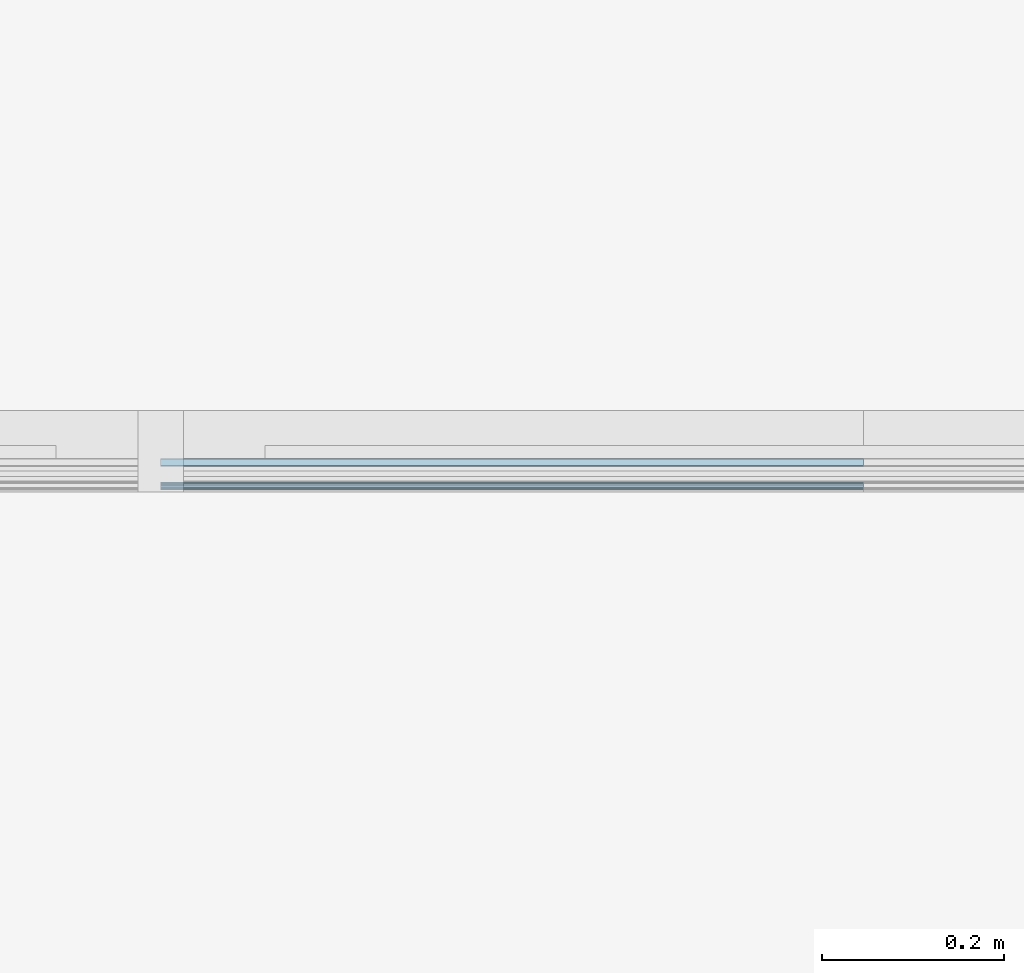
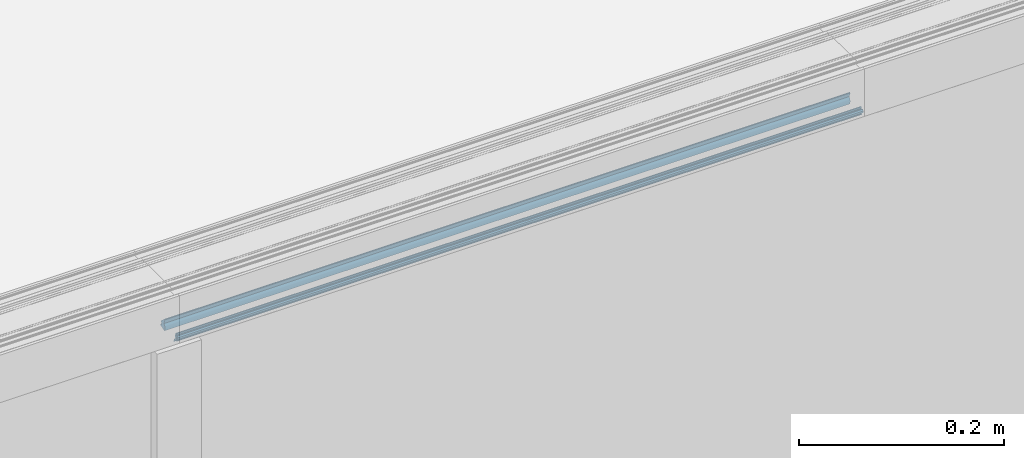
# One storey, part 35 of 69: 1 building element part, 2 elements without a shape of their own.
"""IFC2X3 building model written with IfcOpenShell, lengths in millimetres."""

import ifcopenshell
import ifcopenshell.guid

model = None  # the IFC model being written
_history = None  # IfcOwnerHistory: only IFC2X3 demands one
_inside = {}  # id of a spatial element -> (the spatial element, [elements in it])
_under = {}  # id of a project, library or spatial element -> (it, [spatial elements below it])
_declared = {}  # id of a project -> (the project, [libraries it declares])
_typed = {}  # id of a type object -> (the type object, [elements of that type])
_made_of = {}  # id of a material, layer set ... -> (it, [elements and type objects made of it])


def new_model(schema):
    """Start an empty IFC model of exactly this schema.

    Asked for "IFC4X3", IfcOpenShell would pick the latest addendum, in which some entities
    have other attributes; the version numbers below select the first issue.
    IFC2X3 requires an IfcOwnerHistory on every rooted entity: one is made here for all.
    """
    global model, _history
    if schema == "IFC4X3":
        model = ifcopenshell.file(schema_version=(4, 3, 0, 0))
    else:
        model = ifcopenshell.file(schema=schema)
    _inside.clear()
    _under.clear()
    _declared.clear()
    _typed.clear()
    _made_of.clear()
    _history = None
    if model.schema == "IFC2X3":
        org = make("IfcOrganization", Name="unknown")
        user = make(
            "IfcPersonAndOrganization",
            ThePerson=make("IfcPerson", FamilyName="unknown"),
            TheOrganization=org,
        )
        app = make(
            "IfcApplication",
            ApplicationDeveloper=org,
            Version="unknown",
            ApplicationFullName="unknown",
            ApplicationIdentifier="unknown",
        )
        _history = make(
            "IfcOwnerHistory",
            OwningUser=user,
            OwningApplication=app,
            ChangeAction="ADDED",
            CreationDate=0,
        )
    return model


def make(cls, **values):
    """One entity of the class cls with the attributes given. An attribute that is None is left unset."""
    return model.create_entity(
        cls, **{name: value for name, value in values.items() if value is not None}
    )


def entity(cls, *values):
    """Any entity or typed value of the class cls, its attributes in the order of the schema. None: left unset."""
    e = model.create_entity(cls)
    for i, value in enumerate(values):
        if value is not None:
            e[i] = value
    return e


def rooted(cls, **values):
    """An entity with a GlobalId (a new one), such as an element, a storey or a relation."""
    return make(cls, GlobalId=ifcopenshell.guid.new(), OwnerHistory=_history, **values)


def si_unit(unit_type, name, prefix=None):
    """IfcSIUnit, for example si_unit("LENGTHUNIT", "METRE", prefix="MILLI")."""
    return make("IfcSIUnit", UnitType=unit_type, Prefix=prefix, Name=name)


def converted_unit(unit_type, name, factor, base, dimensions=None, offset=None):
    """IfcConversionBasedUnit, such as the inch: factor (a typed value) times the base unit."""
    return make(
        "IfcConversionBasedUnit"
        if offset is None
        else "IfcConversionBasedUnitWithOffset",
        ConversionOffset=offset,
        Dimensions=None
        if dimensions is None
        else entity("IfcDimensionalExponents", *dimensions),
        UnitType=unit_type,
        Name=name,
        ConversionFactor=make(
            "IfcMeasureWithUnit", ValueComponent=factor, UnitComponent=base
        ),
    )


def derived_unit(unit_type, elements):
    """IfcDerivedUnit: a product of units, each with its exponent."""
    return make(
        "IfcDerivedUnit",
        Elements=[
            make("IfcDerivedUnitElement", Unit=unit, Exponent=power)
            for unit, power in elements
        ],
        UnitType=unit_type,
    )


def money_unit(currency):
    """IfcMonetaryUnit."""
    return make("IfcMonetaryUnit", Currency=currency)


def assignment(units):
    """IfcUnitAssignment: the units of a project."""
    return None if units is None else make("IfcUnitAssignment", Units=units)


def point(xyz):
    """IfcCartesianPoint."""
    return None if xyz is None else make("IfcCartesianPoint", Coordinates=xyz)


def direction(xyz):
    """IfcDirection."""
    return None if xyz is None else make("IfcDirection", DirectionRatios=xyz)


def frame(location, z_axis=None, x_axis=None):
    """IfcAxis2Placement3D, a coordinate frame: its origin and axes. An axis left out is left unset."""
    return make(
        "IfcAxis2Placement3D",
        Location=point(location),
        Axis=direction(z_axis),
        RefDirection=direction(x_axis),
    )


def origin_with_axes():
    """The frame at (0, 0, 0) with the z axis (0, 0, 1) and the x axis (1, 0, 0) written out."""
    return frame((0.0, 0.0, 0.0), z_axis=(0.0, 0.0, 1.0), x_axis=(1.0, 0.0, 0.0))


def place(relative_to, where):
    """IfcLocalPlacement: puts the frame where relative to a parent placement (None: the world)."""
    return make(
        "IfcLocalPlacement", PlacementRelTo=relative_to, RelativePlacement=where
    )


def context(
    kind, dimensions, precision=None, world=None, true_north=None, identifier=None
):
    """IfcGeometricRepresentationContext, for example the 3D "Model" context."""
    return make(
        "IfcGeometricRepresentationContext",
        ContextIdentifier=identifier,
        ContextType=kind,
        CoordinateSpaceDimension=dimensions,
        Precision=precision,
        WorldCoordinateSystem=world,
        TrueNorth=true_north,
    )


def subcontext(parent, identifier, kind, view, scale=None):
    """IfcGeometricRepresentationSubContext, for example "Body" below "Model"."""
    return make(
        "IfcGeometricRepresentationSubContext",
        ContextIdentifier=identifier,
        ContextType=kind,
        ParentContext=parent,
        TargetScale=scale,
        TargetView=view,
    )


def project(units=None, contexts=None):
    """IfcProject with its units and contexts."""
    return rooted(
        "IfcProject",
        Name="project",
        RepresentationContexts=contexts,
        UnitsInContext=assignment(units),
    )


def spatial(cls, under=None, at=None, **own):
    """A site, building, storey or space (cls), placed at a placement, below another one or the project."""
    s = rooted(cls, ObjectPlacement=at, **own)
    if under is not None:
        _under.setdefault(under.id(), (under, []))[1].append(s)
    return s


def faces_of(points, faces, orient=None, outer=None):
    """IfcFace entities. A face is a list of loops; a loop is a list of indices into points, from 0.

    orient and outer hold one flag for each loop. By default every Orientation is true, the
    first loop of a face is its IfcFaceOuterBound and the others are IfcFaceBound.
    """
    made = []
    for i, loops in enumerate(faces):
        bounds = []
        for j, loop in enumerate(loops):
            is_outer = j == 0 if outer is None else outer[i][j]
            bounds.append(
                make(
                    "IfcFaceOuterBound" if is_outer else "IfcFaceBound",
                    Bound=make("IfcPolyLoop", Polygon=[points[k] for k in loop]),
                    Orientation=True if orient is None else orient[i][j],
                )
            )
        made.append(make("IfcFace", Bounds=bounds))
    return made


def faceted_brep(points, faces, orient=None, outer=None, voids=None):
    """IfcFacetedBrep: a solid bounded by flat faces; with voids (closed shells), ...WithVoids."""
    shared = [point(p) for p in points]
    hull = make("IfcClosedShell", CfsFaces=faces_of(shared, faces, orient, outer))
    if voids is None:
        return make("IfcFacetedBrep", Outer=hull)
    return make(
        "IfcFacetedBrepWithVoids",
        Outer=hull,
        Voids=[
            make(cls, CfsFaces=faces_of(shared, fs, o, b)) for cls, fs, o, b in voids
        ],
    )


def shape(context_of_items, identifier, shape_type, items):
    """IfcShapeRepresentation: the items that make up one representation, for example the "Body"."""
    return make(
        "IfcShapeRepresentation",
        ContextOfItems=context_of_items,
        RepresentationIdentifier=identifier,
        RepresentationType=shape_type,
        Items=items,
    )


def material(Name=None, Category=None):
    """IfcMaterial."""
    return make("IfcMaterial", Name=Name, Category=Category)


def made_of(thing, what):
    """Note that an element or type object is made of a material, layer set ...; save() writes the relation."""
    if what is not None:
        _made_of.setdefault(what.id(), (what, []))[1].append(thing)
    return thing


def type_object(cls, material=None, **own):
    """A type object (cls), such as IfcWallType, which elements share."""
    return made_of(rooted(cls, **own), material)


def element(
    cls,
    number,
    at=None,
    inside=None,
    cuts=None,
    type_object=None,
    material=None,
    context=None,
    identifier="Body",
    shape_type=None,
    held_by="IfcProductDefinitionShape",
    body=None,
    shapes=None,
    **own,
):
    """One element of the class cls, such as IfcWall. Its Tag is "e" and its number.

    at: its placement. inside: the storey or other place that contains it. cuts: it is an
    opening in that element (IfcRelVoidsElement). A single representation is given by context,
    identifier, shape_type and body (its items); several are given by shapes. held_by: the class
    of the entity that holds the representations. save() writes the other relations.
    """
    e = rooted(cls, Tag="e%d" % number, ObjectPlacement=at, **own)
    if body is not None:
        shapes = [shape(context, identifier, shape_type, body)]
    if shapes is not None:
        e.Representation = make(held_by, Representations=shapes)
    if inside is not None:
        _inside.setdefault(inside.id(), (inside, []))[1].append(e)
    if cuts is not None:
        rooted(
            "IfcRelVoidsElement", RelatingBuildingElement=cuts, RelatedOpeningElement=e
        )
    if type_object is not None:
        _typed.setdefault(type_object.id(), (type_object, []))[1].append(e)
    return made_of(e, material)


def aggregate(whole, parts):
    """IfcRelAggregates: a whole, such as a stair, and the parts it consists of."""
    return rooted("IfcRelAggregates", RelatingObject=whole, RelatedObjects=parts)


def save(model, path):
    """Write the relations noted so far, then the file.

    IfcRelAggregates (storeys below a building ...), IfcRelContainedInSpatialStructure (elements
    in a storey), IfcRelDefinesByType, IfcRelAssociatesMaterial and IfcRelDeclares: one each for
    every whole, place, type object, material and project.
    """
    for whole, parts in _under.values():
        aggregate(whole, parts)
    for where, things in _inside.values():
        rooted(
            "IfcRelContainedInSpatialStructure",
            RelatedElements=things,
            RelatingStructure=where,
        )
    for kind, things in _typed.values():
        rooted("IfcRelDefinesByType", RelatedObjects=things, RelatingType=kind)
    for what, things in _made_of.values():
        rooted("IfcRelAssociatesMaterial", RelatedObjects=things, RelatingMaterial=what)
    for by, libraries in _declared.values():
        rooted("IfcRelDeclares", RelatingContext=by, RelatedDefinitions=libraries)
    model.write(path)


model = new_model("IFC2X3")

# Units and contexts
model_context = context("Model", 3, precision=0.01, world=origin_with_axes(), true_north=direction((0.0, 1.0)))
body_context = subcontext(model_context, "Body", "Model", "MODEL_VIEW")
ifc_project = project(units=[si_unit("LENGTHUNIT", "METRE", prefix="MILLI"), si_unit("AREAUNIT", "SQUARE_METRE"), si_unit("VOLUMEUNIT", "CUBIC_METRE"), converted_unit("PLANEANGLEUNIT", "DEGREE", entity("IfcPlaneAngleMeasure", 0.0174532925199), si_unit("PLANEANGLEUNIT", "RADIAN"), dimensions=[0, 0, 0, 0, 0, 0, 0]), si_unit("SOLIDANGLEUNIT", "STERADIAN"), money_unit("EUR"), converted_unit("TIMEUNIT", "Year", entity("IfcTimeMeasure", 31556926.0), si_unit("TIMEUNIT", "SECOND"), dimensions=[0, 0, 1, 0, 0, 0, 0]), si_unit("MASSUNIT", "GRAM", prefix="KILO"), si_unit("THERMODYNAMICTEMPERATUREUNIT", "DEGREE_CELSIUS"), si_unit("LUMINOUSINTENSITYUNIT", "LUMEN"), si_unit("ENERGYUNIT", "JOULE", prefix="MEGA"), derived_unit("THERMALCONDUCTANCEUNIT", [(si_unit("POWERUNIT", "WATT"), 1), (si_unit("LENGTHUNIT", "METRE"), -1), (si_unit("THERMODYNAMICTEMPERATUREUNIT", "KELVIN"), -1)]), derived_unit("SPECIFICHEATCAPACITYUNIT", [(si_unit("ENERGYUNIT", "JOULE"), 1), (si_unit("MASSUNIT", "GRAM", prefix="KILO"), -1), (si_unit("THERMODYNAMICTEMPERATUREUNIT", "KELVIN"), -1)]), derived_unit("MASSDENSITYUNIT", [(si_unit("MASSUNIT", "GRAM", prefix="KILO"), 1), (si_unit("VOLUMEUNIT", "CUBIC_METRE"), -1)])], contexts=[model_context])

# Site, building, storey
site_placement = place(None, origin_with_axes())
site = spatial("IfcSite", under=ifc_project, at=site_placement, Name="Puškini 31, Narva", CompositionType="ELEMENT")
building_placement = place(site_placement, origin_with_axes())
building = spatial("IfcBuilding", under=site, at=building_placement, Name="Narva Riigigümnaasium", CompositionType="ELEMENT")
storey_placement = place(building_placement, origin_with_axes())
storey = spatial("IfcBuildingStorey", under=building, at=storey_placement, Name="1.korrus 0.00", CompositionType="ELEMENT", Elevation=0.0)

# Curtain wall, member, building element part
curtain_wall_type = type_object("IfcCurtainWallType", Name="Curtain Wall Type", PredefinedType="NOTDEFINED")
curtain_wall_placement = place(storey_placement, frame((18229.9603698, 152620.000001, -0.397158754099), z_axis=(0.0, 0.0, 1.0), x_axis=(1.0, 0.0, 0.0)))
curtain_wall = element("IfcCurtainWall", 1, at=curtain_wall_placement, inside=storey, type_object=curtain_wall_type, Name="G-KLF-01-1")
member_type = type_object("IfcMemberType", Name="61 x 45", PredefinedType="MULLION")
member_placement = place(curtain_wall_placement, frame((1882.40686752, 0.0, 3760.3971197), z_axis=(-1.0, 0.0, 0.0), x_axis=(0.0, 0.0, 1.0)))
member = element("IfcMember", 2, at=member_placement, type_object=member_type, Name="G-SKLF-01-raam", ObjectType="MULLION")
aggregate(curtain_wall, [member])
ifc_material = material(Name="Membraan - Veekindel")
building_element_part_placement = place(member_placement, origin_with_axes())
building_element_part = element("IfcBuildingElementPart", 3, at=building_element_part_placement, material=ifc_material, Name="Membraan - Veekindel", context=body_context, shape_type="Brep", body=[
    faceted_brep([(-61.0413385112, -34.3890442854, 0.0), (-59.5800222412, -34.73794757, 0.0), (-59.5800222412, -34.73794757, 773.683604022), (-61.0413385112, -34.3890442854, 773.683604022), (-61.1536677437, -34.1934467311, 0.0), (-61.1423164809, -33.9681748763, 0.0), (-61.0108941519, -33.784859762, 0.0), (-60.7381535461, -33.9217644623, 0.0), (-59.8409257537, -34.1343131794, 0.0), (-58.2346494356, -34.5489145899, 0.0), (-56.9567944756, -35.6067920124, 0.0), (-56.2495873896, -37.1074172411, 0.0), (-56.1542959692, -37.3107917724, 0.0), (-55.9795989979, -37.4519392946, 0.0), (-55.7607444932, -37.5023809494, 0.0), (-55.1093263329, -37.5023809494, 0.0), (-54.8593263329, -37.4353936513, 0.0), (-54.676313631, -37.2523809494, 0.0), (-54.2721684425, -36.5523809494, 0.0), (-54.0891557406, -36.3693682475, 0.0), (-53.8391557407, -36.3023809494, 0.0), (-51.602145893, -36.3023809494, 0.0), (-51.352145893, -36.3693682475, 0.0), (-51.1691331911, -36.5523809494, 0.0), (-50.7649880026, -37.2523809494, 0.0), (-50.5819753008, -37.4353936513, 0.0), (-50.3319753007, -37.5023809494, 0.0), (-49.2206527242, -37.5023809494, 0.0), (-48.9706527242, -37.5693682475, 0.0), (-48.7876400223, -37.7523809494, 0.0), (-48.7206527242, -38.0023809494, 0.0), (-48.7206527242, -39.1999494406, 0.0), (-50.10004, -39.1999494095, 0.0), (-50.1670287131, -38.9499497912, 0.0), (-50.3500424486, -38.7669381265, 0.0), (-50.6000428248, -38.699952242, 0.0), (-50.8500424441, -38.7669409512, 0.0), (-51.0330541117, -38.9499546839, 0.0), (-51.10004, -39.1999550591, 0.0), (-51.10004, -40.4999366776, 0.0), (-51.0598476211, -40.6499366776, 0.0), (-50.95004, -40.7597442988, 0.0), (-50.80004, -40.7999366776, 0.0), (-50.7000457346, -40.7999366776, 0.0), (-50.5334025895, -40.8504763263, 0.0), (-50.4229059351, -40.9850671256, 0.0), (-50.4057850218, -41.1583618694, 0.0), (-50.4878083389, -41.3119729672, 0.0), (-51.5281601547, -42.3533311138, 0.0), (-51.6904310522, -42.4618421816, 0.0), (-51.8818844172, -42.4999486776, 0.0), (-53.517932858, -42.4999486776, 0.0), (-53.7093558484, -42.4618547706, 0.0), (-53.8716106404, -42.3533776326, 0.0), (-54.9122350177, -41.3120206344, 0.0), (-54.9942836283, -41.1584047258, 0.0), (-54.9771753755, -40.9850924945, 0.0), (-54.866675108, -40.850483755, 0.0), (-54.7000173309, -40.7999366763, 0.0), (-54.6000210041, -40.7999366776, 0.0), (-54.4500210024, -40.7597443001, 0.0), (-54.3402133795, -40.6499366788, 0.0), (-54.300021, -40.4999366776, 0.0), (-54.300021, -39.1999606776, 0.0), (-54.3670082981, -38.9499606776, 0.0), (-54.5500210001, -38.7669479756, 0.0), (-54.8000210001, -38.6999606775, 0.0), (-55.0500210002, -38.7669479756, 0.0), (-55.2330337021, -38.9499606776, 0.0), (-55.3000210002, -39.1999606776, 0.0), (-57.3000022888, -39.1999494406, 0.0), (-57.3000022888, -39.9999846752, 0.0), (-57.5000161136, -39.9463912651, 0.0), (-57.6464370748, -39.7999717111, 0.0), (-57.7000324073, -39.5999584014, 0.0), (-57.9693613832, -36.5265882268, 0.0), (-58.4755028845, -35.3628499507, 0.0), (-53.5000340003, -40.7999553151, 0.0), (-53.4330491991, -41.0499459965, 0.0), (-53.2500433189, -41.2329518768, 0.0), (-53.0000526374, -41.299936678, 0.0), (-52.4000083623, -41.299936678, 0.0), (-52.150017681, -41.2329518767, 0.0), (-51.9670118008, -41.0499459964, 0.0), (-51.9000269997, -40.799955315, 0.0), (-51.9000269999, -39.6999268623, 0.0), (-51.9670129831, -39.4499317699, 0.0), (-52.1500220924, -39.2669226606, 0.0), (-52.4000171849, -39.1999366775, 0.0), (-53.0000438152, -39.1999366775, 0.0), (-53.2500389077, -39.2669226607, 0.0), (-53.433048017, -39.44993177, 0.0), (-58.4755028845, -35.3628499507, 773.683604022), (-57.9693613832, -36.5265882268, 773.683604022), (-57.7000324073, -39.5999584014, 773.683604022), (-57.6464370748, -39.7999717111, 773.683604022), (-57.5000161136, -39.9463912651, 773.683604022), (-57.3000022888, -39.9999846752, 773.683604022), (-57.3000022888, -39.1999494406, 773.683604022), (-55.3000210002, -39.1999606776, 773.683604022), (-55.2330337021, -38.9499606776, 773.683604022), (-55.0500210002, -38.7669479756, 773.683604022), (-54.8000210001, -38.6999606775, 773.683604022), (-54.5500210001, -38.7669479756, 773.683604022), (-54.3670082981, -38.9499606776, 773.683604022), (-54.300021, -39.1999606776, 773.683604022), (-54.300021, -40.4999366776, 773.683604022), (-54.3402133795, -40.6499366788, 773.683604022), (-54.4500210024, -40.7597443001, 773.683604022), (-54.6000210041, -40.7999366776, 773.683604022), (-54.7000173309, -40.7999366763, 773.683604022), (-54.866675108, -40.850483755, 773.683604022), (-54.9771753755, -40.9850924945, 773.683604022), (-54.9942836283, -41.1584047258, 773.683604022), (-54.9122350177, -41.3120206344, 773.683604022), (-53.8716106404, -42.3533776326, 773.683604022), (-53.7093558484, -42.4618547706, 773.683604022), (-53.517932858, -42.4999486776, 773.683604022), (-51.8818844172, -42.4999486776, 773.683604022), (-51.6904310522, -42.4618421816, 773.683604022), (-51.5281601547, -42.3533311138, 773.683604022), (-50.4878083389, -41.3119729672, 773.683604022), (-50.4057850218, -41.1583618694, 773.683604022), (-50.4229059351, -40.9850671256, 773.683604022), (-50.5334025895, -40.8504763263, 773.683604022), (-50.7000457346, -40.7999366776, 773.683604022), (-50.80004, -40.7999366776, 773.683604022), (-50.95004, -40.7597442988, 773.683604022), (-51.0598476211, -40.6499366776, 773.683604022), (-51.10004, -40.4999366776, 773.683604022), (-51.10004, -39.1999550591, 773.683604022), (-51.0330541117, -38.9499546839, 773.683604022), (-50.8500424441, -38.7669409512, 773.683604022), (-50.6000428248, -38.699952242, 773.683604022), (-50.3500424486, -38.7669381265, 773.683604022), (-50.1670287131, -38.9499497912, 773.683604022), (-50.10004, -39.1999494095, 773.683604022), (-48.7206527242, -39.1999494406, 773.683604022), (-48.7206527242, -38.0023809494, 773.683604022), (-48.7876400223, -37.7523809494, 773.683604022), (-48.9706527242, -37.5693682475, 773.683604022), (-49.2206527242, -37.5023809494, 773.683604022), (-50.3319753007, -37.5023809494, 773.683604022), (-50.5819753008, -37.4353936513, 773.683604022), (-50.7649880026, -37.2523809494, 773.683604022), (-51.1691331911, -36.5523809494, 773.683604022), (-51.352145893, -36.3693682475, 773.683604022), (-51.602145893, -36.3023809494, 773.683604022), (-53.8391557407, -36.3023809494, 773.683604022), (-54.0891557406, -36.3693682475, 773.683604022), (-54.2721684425, -36.5523809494, 773.683604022), (-54.676313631, -37.2523809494, 773.683604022), (-54.8593263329, -37.4353936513, 773.683604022), (-55.1093263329, -37.5023809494, 773.683604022), (-55.7607444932, -37.5023809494, 773.683604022), (-55.9795989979, -37.4519392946, 773.683604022), (-56.1542959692, -37.3107917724, 773.683604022), (-56.2495873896, -37.1074172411, 773.683604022), (-56.9567944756, -35.6067920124, 773.683604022), (-58.2346494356, -34.5489145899, 773.683604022), (-59.8409257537, -34.1343131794, 773.683604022), (-60.7381535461, -33.9217644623, 773.683604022), (-61.0108941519, -33.784859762, 773.683604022), (-61.1423164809, -33.9681748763, 773.683604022), (-61.1536677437, -34.1934467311, 773.683604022), (-53.5000340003, -40.7999553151, 773.683604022), (-53.433048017, -39.44993177, 773.683604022), (-53.2500389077, -39.2669226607, 773.683604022), (-53.0000438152, -39.1999366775, 773.683604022), (-52.4000171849, -39.1999366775, 773.683604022), (-52.1500220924, -39.2669226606, 773.683604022), (-51.9670129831, -39.4499317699, 773.683604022), (-51.9000269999, -39.6999268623, 773.683604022), (-51.9000269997, -40.799955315, 773.683604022), (-51.9670118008, -41.0499459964, 773.683604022), (-52.150017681, -41.2329518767, 773.683604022), (-52.4000083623, -41.299936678, 773.683604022), (-53.0000526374, -41.299936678, 773.683604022), (-53.2500433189, -41.2329518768, 773.683604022), (-53.4330491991, -41.0499459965, 773.683604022)], [[[0, 1, 2, 3]], [[0, 4, 5, 6, 7, 8, 9, 10, 11, 12, 13, 14, 15, 16, 17, 18, 19, 20, 21, 22, 23, 24, 25, 26, 27, 28, 29, 30, 31, 32, 33, 34, 35, 36, 37, 38, 39, 40, 41, 42, 43, 44, 45, 46, 47, 48, 49, 50, 51, 52, 53, 54, 55, 56, 57, 58, 59, 60, 61, 62, 63, 64, 65, 66, 67, 68, 69, 70, 71, 72, 73, 74, 75, 76, 1], [77, 78, 79, 80, 81, 82, 83, 84, 85, 86, 87, 88, 89, 90, 91]], [[1, 76, 92, 2]], [[3, 2, 92, 93, 94, 95, 96, 97, 98, 99, 100, 101, 102, 103, 104, 105, 106, 107, 108, 109, 110, 111, 112, 113, 114, 115, 116, 117, 118, 119, 120, 121, 122, 123, 124, 125, 126, 127, 128, 129, 130, 131, 132, 133, 134, 135, 136, 137, 138, 139, 140, 141, 142, 143, 144, 145, 146, 147, 148, 149, 150, 151, 152, 153, 154, 155, 156, 157, 158, 159, 160, 161, 162, 163, 164], [165, 166, 167, 168, 169, 170, 171, 172, 173, 174, 175, 176, 177, 178, 179]], [[4, 0, 3, 164]], [[5, 4, 164, 163]], [[6, 5, 163, 162]], [[7, 6, 162, 161]], [[8, 7, 161, 160]], [[9, 8, 160, 159]], [[10, 9, 159, 158]], [[11, 10, 158, 157]], [[12, 11, 157, 156]], [[13, 12, 156, 155]], [[14, 13, 155, 154]], [[15, 14, 154, 153]], [[16, 15, 153, 152]], [[17, 16, 152, 151]], [[18, 17, 151, 150]], [[19, 18, 150, 149]], [[20, 19, 149, 148]], [[21, 20, 148, 147]], [[22, 21, 147, 146]], [[23, 22, 146, 145]], [[24, 23, 145, 144]], [[25, 24, 144, 143]], [[26, 25, 143, 142]], [[27, 26, 142, 141]], [[28, 27, 141, 140]], [[29, 28, 140, 139]], [[30, 29, 139, 138]], [[31, 30, 138, 137]], [[32, 31, 137, 136]], [[33, 32, 136, 135]], [[34, 33, 135, 134]], [[35, 34, 134, 133]], [[36, 35, 133, 132]], [[37, 36, 132, 131]], [[38, 37, 131, 130]], [[39, 38, 130, 129]], [[40, 39, 129, 128]], [[41, 40, 128, 127]], [[42, 41, 127, 126]], [[43, 42, 126, 125]], [[44, 43, 125, 124]], [[45, 44, 124, 123]], [[46, 45, 123, 122]], [[47, 46, 122, 121]], [[48, 47, 121, 120]], [[49, 48, 120, 119]], [[50, 49, 119, 118]], [[51, 50, 118, 117]], [[52, 51, 117, 116]], [[53, 52, 116, 115]], [[54, 53, 115, 114]], [[55, 54, 114, 113]], [[56, 55, 113, 112]], [[57, 56, 112, 111]], [[58, 57, 111, 110]], [[59, 58, 110, 109]], [[60, 59, 109, 108]], [[61, 60, 108, 107]], [[62, 61, 107, 106]], [[63, 62, 106, 105]], [[64, 63, 105, 104]], [[65, 64, 104, 103]], [[66, 65, 103, 102]], [[67, 66, 102, 101]], [[68, 67, 101, 100]], [[69, 68, 100, 99]], [[70, 69, 99, 98]], [[71, 70, 98, 97]], [[72, 71, 97, 96]], [[73, 72, 96, 95]], [[74, 73, 95, 94]], [[75, 74, 94, 93]], [[76, 75, 93, 92]], [[78, 77, 165, 179]], [[79, 78, 179, 178]], [[80, 79, 178, 177]], [[81, 80, 177, 176]], [[82, 81, 176, 175]], [[83, 82, 175, 174]], [[84, 83, 174, 173]], [[85, 84, 173, 172]], [[86, 85, 172, 171]], [[87, 86, 171, 170]], [[88, 87, 170, 169]], [[89, 88, 169, 168]], [[90, 89, 168, 167]], [[91, 90, 167, 166]], [[77, 91, 166, 165]]]),
    faceted_brep([(-59.0307115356, -16.554149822, 0.0), (-55.9926715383, -16.8063498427, 0.0), (-55.9926715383, -16.8063498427, 773.683604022), (-59.0307115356, -16.554149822, 773.683604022), (-59.3884652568, -16.1092618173, 0.0), (-59.5001582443, -15.5494067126, 0.0), (-59.3405112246, -15.0012955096, 0.0), (-57.5418652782, -10.0035930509, 0.0), (-57.2632233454, -8.46932121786, 0.0), (-57.1824204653, -8.36745448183, 0.0), (-57.0661058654, -8.3093438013, 0.0), (-56.9361285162, -8.30590490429, 0.0), (-55.5361285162, -8.57803733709, 0.0), (-55.4168250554, -8.6299735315, 0.0), (-55.3307332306, -8.7275382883, 0.0), (-55.2940485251, -8.85237785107, 0.0), (-55.4099827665, -9.81272116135, 0.0), (-55.3838261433, -9.97808311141, 0.0), (-55.2731258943, -10.1036784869, 0.0), (-55.1123574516, -10.1503930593, 0.0), (-53.0580290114, -10.1503930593, 0.0), (-52.8859560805, -10.0961386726, 0.0), (-52.7761212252, -9.95299910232, 0.0), (-52.3556584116, -8.79778701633, 0.0), (-52.2574645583, -8.66326410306, 0.0), (-52.1026310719, -8.60190419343, 0.0), (-51.938943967, -8.6326446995, 0.0), (-51.8169217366, -8.74599822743, 0.0), (-45.6142070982, -15.4144760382, 0.0), (-45.3418968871, -15.7688623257, 0.0), (-45.3195226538, -16.2152275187, 0.0), (-45.3889077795, -16.3899097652, 0.0), (-45.6241929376, -16.6482027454, 0.0), (-45.950966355, -16.7718696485, 0.0), (-46.298307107, -16.7340705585, 0.0), (-50.5536994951, -15.2121179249, 0.0), (-50.8437237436, -15.0307134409, 0.0), (-51.0558924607, -14.9074036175, 0.0), (-51.3011765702, -14.8998814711, 0.0), (-51.5205025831, -15.0099586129, 0.0), (-53.1225200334, -16.3483062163, 0.0), (-53.7899070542, -16.6230039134, 0.0), (-53.7899070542, -16.6230039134, 773.683604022), (-53.1225200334, -16.3483062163, 773.683604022), (-51.5205025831, -15.0099586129, 773.683604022), (-51.3011765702, -14.8998814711, 773.683604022), (-51.0558924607, -14.9074036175, 773.683604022), (-50.8437237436, -15.0307134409, 773.683604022), (-50.5536994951, -15.2121179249, 773.683604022), (-46.298307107, -16.7340705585, 773.683604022), (-45.950966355, -16.7718696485, 773.683604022), (-45.6241929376, -16.6482027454, 773.683604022), (-45.3889077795, -16.3899097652, 773.683604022), (-45.3195226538, -16.2152275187, 773.683604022), (-45.3418968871, -15.7688623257, 773.683604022), (-45.6142070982, -15.4144760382, 773.683604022), (-51.8169217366, -8.74599822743, 773.683604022), (-51.938943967, -8.6326446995, 773.683604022), (-52.1026310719, -8.60190419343, 773.683604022), (-52.2574645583, -8.66326410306, 773.683604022), (-52.3556584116, -8.79778701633, 773.683604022), (-52.7761212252, -9.95299910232, 773.683604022), (-52.8859560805, -10.0961386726, 773.683604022), (-53.0580290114, -10.1503930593, 773.683604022), (-55.1123574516, -10.1503930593, 773.683604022), (-55.2731258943, -10.1036784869, 773.683604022), (-55.3838261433, -9.97808311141, 773.683604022), (-55.4099827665, -9.81272116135, 773.683604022), (-55.2940485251, -8.85237785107, 773.683604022), (-55.3307332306, -8.7275382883, 773.683604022), (-55.4168250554, -8.6299735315, 773.683604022), (-55.5361285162, -8.57803733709, 773.683604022), (-56.9361285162, -8.30590490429, 773.683604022), (-57.0661058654, -8.3093438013, 773.683604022), (-57.1824204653, -8.36745448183, 773.683604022), (-57.2632233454, -8.46932121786, 773.683604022), (-57.5418652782, -10.0035930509, 773.683604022), (-59.3405112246, -15.0012955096, 773.683604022), (-59.5001582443, -15.5494067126, 773.683604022), (-59.3884652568, -16.1092618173, 773.683604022)], [[[0, 1, 2, 3]], [[0, 4, 5, 6, 7, 8, 9, 10, 11, 12, 13, 14, 15, 16, 17, 18, 19, 20, 21, 22, 23, 24, 25, 26, 27, 28, 29, 30, 31, 32, 33, 34, 35, 36, 37, 38, 39, 40, 41, 1]], [[1, 41, 42, 2]], [[3, 2, 42, 43, 44, 45, 46, 47, 48, 49, 50, 51, 52, 53, 54, 55, 56, 57, 58, 59, 60, 61, 62, 63, 64, 65, 66, 67, 68, 69, 70, 71, 72, 73, 74, 75, 76, 77, 78, 79]], [[4, 0, 3, 79]], [[5, 4, 79, 78]], [[6, 5, 78, 77]], [[7, 6, 77, 76]], [[8, 7, 76, 75]], [[9, 8, 75, 74]], [[10, 9, 74, 73]], [[11, 10, 73, 72]], [[12, 11, 72, 71]], [[13, 12, 71, 70]], [[14, 13, 70, 69]], [[15, 14, 69, 68]], [[16, 15, 68, 67]], [[17, 16, 67, 66]], [[18, 17, 66, 65]], [[19, 18, 65, 64]], [[20, 19, 64, 63]], [[21, 20, 63, 62]], [[22, 21, 62, 61]], [[23, 22, 61, 60]], [[24, 23, 60, 59]], [[25, 24, 59, 58]], [[26, 25, 58, 57]], [[27, 26, 57, 56]], [[28, 27, 56, 55]], [[29, 28, 55, 54]], [[30, 29, 54, 53]], [[31, 30, 53, 52]], [[32, 31, 52, 51]], [[33, 32, 51, 50]], [[34, 33, 50, 49]], [[35, 34, 49, 48]], [[36, 35, 48, 47]], [[37, 36, 47, 46]], [[38, 37, 46, 45]], [[39, 38, 45, 44]], [[40, 39, 44, 43]], [[41, 40, 43, 42]]]),
])
aggregate(member, [building_element_part])

save(model, "model.ifc")
